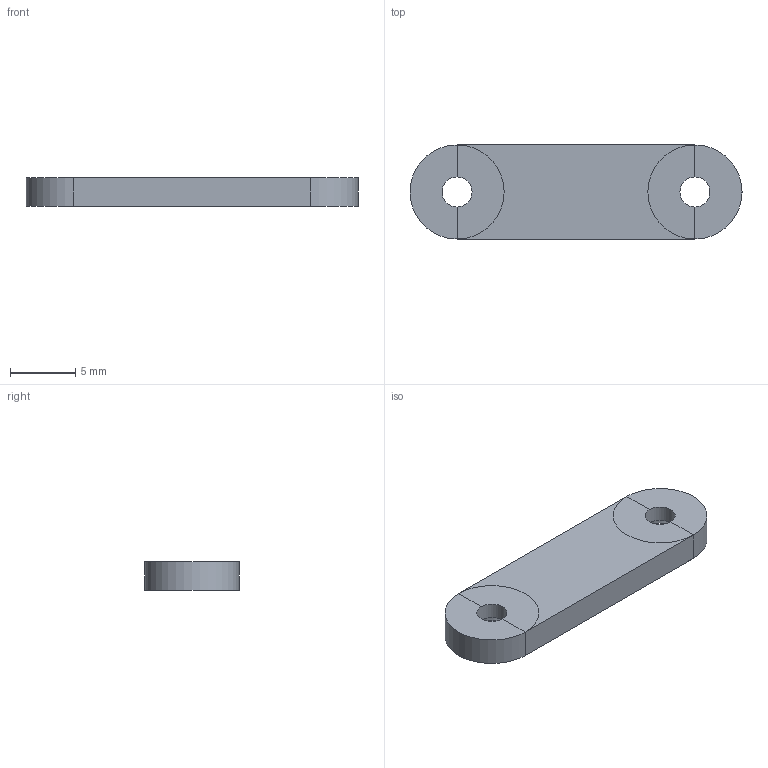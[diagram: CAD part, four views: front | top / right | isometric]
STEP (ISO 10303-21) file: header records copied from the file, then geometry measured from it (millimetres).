
FILE_DESCRIPTION(('Open CASCADE Model'),'2;1');
FILE_NAME('Open CASCADE Shape Model','2026-09-15T13:32:13',('Author'),( 'Open CASCADE'),'Open CASCADE STEP processor 7.7','Open CASCADE 7.7' ,'Unknown');
FILE_SCHEMA(('AUTOMOTIVE_DESIGN { 1 0 10303 214 1 1 1 1 }'));
Length unit declared in the file: millimetre
Products named in the file (1): R36_P12_Durable_Retainer
Bounding box: 25.4 x 7.2 x 2.2 mm (x, y, z)
Volume: 351.3 mm3; surface area: 482.8 mm2
Topology: 1 solids, 1 shells, 19 faces, 47 edges, 26 vertices
Faces by surface type: plane 12, cylinder 5, cone 2
Full cylindrical faces by diameter (mm): 2.3 x2
Entity records: 1188 total; most frequent: DIRECTION 207, CARTESIAN_POINT 187, ORIENTED_EDGE 94, PCURVE 94, DEFINITIONAL_REPRESENTATION 94, LINE 85, VECTOR 85, CIRCLE 56
